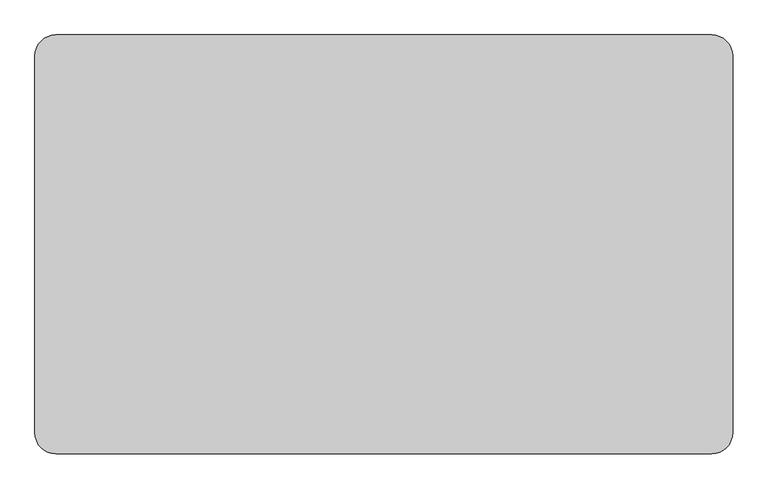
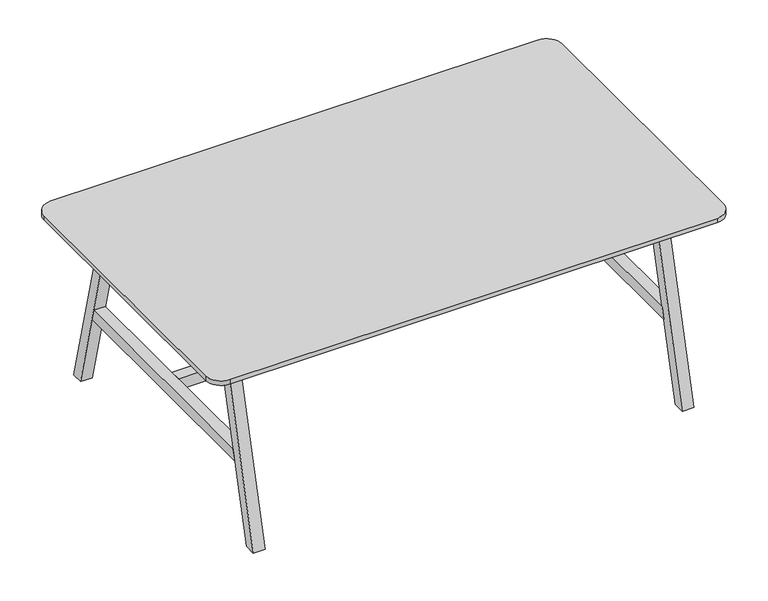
"""IFC4 building model written with IfcOpenShell, lengths in millimetres: furniture geometry, BDG_BossDesign_Tbls_AgentTables4Legs : AGE-DT-2000-1200-3D."""

from ifc_helpers import new_model, si_unit, point, frame, frame_2d, origin, place, context, project, spatial, polyline, circle_curve, trimmed, segment, composite_curve, outline, extrude, source, transform, mapped, element, save


def furniture_3deafaf1(model_context):
    return source(origin(), model_context, "Body", "SweptSolid", [
        extrude(outline(polyline([(-466.3977249, 345.0), (466.3977249, 345.0), (477.9545427, 300.0), (-477.9545427, 300.0), (-466.3977249, 345.0)])), frame((805.0, 0.0, 0.0), z_axis=(1.0, 0.0, 0.0), x_axis=(0.0, 1.0, 0.0)), (0.0, 0.0, 1.0), 45.0),
        extrude(outline(polyline([(600.0, 0.0), (554.9999949, 0.0), (385.5, 660.0), (430.5000051, 660.0), (600.0, 0.0)])), frame((-850.0, 0.0, 0.0), z_axis=(1.0, 0.0, 0.0), x_axis=(0.0, 1.0, 0.0)), (0.0, 0.0, 1.0), 45.0),
        extrude(outline(polyline([(-600.0, 0.0), (-430.5000051, 660.0), (-385.5, 660.0), (-554.9999949, 0.0), (-600.0, 0.0)])), frame((-850.0, 0.0, 0.0), z_axis=(1.0, 0.0, 0.0), x_axis=(0.0, 1.0, 0.0)), (0.0, 0.0, 1.0), 45.0),
        extrude(outline(polyline([(-379.5, 722.0), (379.5, 722.0), (397.9691272, 650.0), (-397.9691272, 650.0), (-379.5, 722.0)])), frame((388.0, 0.0, 0.0), z_axis=(1.0, 0.0, 0.0), x_axis=(0.0, 1.0, 0.0)), (0.0, 0.0, 1.0), 24.0),
        extrude(outline(polyline([(-466.3977249, 345.0), (466.3977249, 345.0), (477.9545427, 300.0), (-477.9545427, 300.0), (-466.3977249, 345.0)])), frame((-850.0, 0.0, 0.0), z_axis=(1.0, 0.0, 0.0), x_axis=(0.0, 1.0, 0.0)), (0.0, 0.0, 1.0), 45.0),
        extrude(outline(polyline([(-379.5, 722.0), (379.5, 722.0), (397.9691272, 650.0), (-397.9691272, 650.0), (-379.5, 722.0)])), frame((-412.0, 0.0, 0.0), z_axis=(1.0, 0.0, 0.0), x_axis=(0.0, 1.0, 0.0)), (0.0, 0.0, 1.0), 24.0),
        extrude(outline(polyline([(-426.6006165, 634.973938), (-404.2770691, 722.0), (-379.5, 722.0), (-401.8235474, 634.973938), (-426.6006165, 634.973938)])), frame((-805.0, 0.0, 0.0), z_axis=(1.0, 0.0, 0.0), x_axis=(0.0, 1.0, 0.0)), (0.0, 0.0, 1.0), 1610.0),
        extrude(outline(polyline([(426.6006165, 634.973938), (401.8235474, 634.973938), (379.5, 722.0), (404.2770691, 722.0), (426.6006165, 634.973938)])), frame((-805.0, 0.0, 0.0), z_axis=(1.0, 0.0, 0.0), x_axis=(0.0, 1.0, 0.0)), (0.0, 0.0, 1.0), 1610.0),
        extrude(outline(polyline([(599.7999878, 0.0), (554.7999827, 0.0), (385.5, 660.0), (430.5000051, 660.0), (599.7999878, 0.0)])), frame((805.0, 0.0, 0.0), z_axis=(1.0, 0.0, 0.0), x_axis=(0.0, 1.0, 0.0)), (0.0, 0.0, 1.0), 45.0),
        extrude(outline(polyline([(-599.7999878, 0.0), (-430.5000051, 660.0), (-385.5, 660.0), (-554.7999827, 0.0), (-599.7999878, 0.0)])), frame((805.0, 0.0, 0.0), z_axis=(1.0, 0.0, 0.0), x_axis=(0.0, 1.0, 0.0)), (0.0, 0.0, 1.0), 45.0),
        extrude(outline(polyline([(805.0, 22.5000305), (805.0, -22.5000305), (-805.0, -22.5000305), (-805.0, 22.5000305), (805.0, 22.5000305)])), frame((0.0, 0.0, 300.0), z_axis=(0.0, 0.0, 1.0), x_axis=(1.0, 0.0, 0.0)), (0.0, 0.0, 1.0), 45.0),
        extrude(outline(composite_curve([segment(trimmed(circle_curve(frame_2d((940.0, 540.0)), 60.0), [point((940.0, 600.0))], [point((1000.0, 540.0))], False, "CARTESIAN"), True, "CONTINUOUS"), segment(polyline([(1000.0, 540.0), (1000.0, -540.0)]), True, "CONTINUOUS"), segment(trimmed(circle_curve(frame_2d((940.0, -540.0)), 60.0), [point((1000.0, -540.0))], [point((940.0, -600.0))], False, "CARTESIAN"), True, "CONTINUOUS"), segment(polyline([(940.0, -600.0), (-940.0, -600.0)]), True, "CONTINUOUS"), segment(trimmed(circle_curve(frame_2d((-940.0, -540.0)), 60.0), [point((-940.0, -600.0))], [point((-1000.0, -540.0))], False, "CARTESIAN"), True, "CONTINUOUS"), segment(polyline([(-1000.0, -540.0), (-1000.0, 540.0)]), True, "CONTINUOUS"), segment(trimmed(circle_curve(frame_2d((-940.0, 540.0)), 60.0), [point((-1000.0, 540.0))], [point((-940.0, 600.0))], False, "CARTESIAN"), True, "CONTINUOUS"), segment(polyline([(-940.0, 600.0), (940.0, 600.0)]), True, "CONTINUOUS")], self_intersect=False)), frame((0.0, 0.0, 722.0), z_axis=(0.0, 0.0, 1.0), x_axis=(1.0, 0.0, 0.0)), (0.0, 0.0, 1.0), 18.0),
    ])


if __name__ == "__main__":
    model = new_model("IFC4")
    model_context = context("Model", 3, world=origin())
    ifc_project = project(units=[si_unit("LENGTHUNIT", "METRE", prefix="MILLI")], contexts=[model_context])
    site = spatial("IfcSite", under=ifc_project)
    building = spatial("IfcBuilding", under=site)
    placement = place(None, origin())
    furniture_shape = furniture_3deafaf1(model_context)
    element("IfcFurniture", 1, ObjectType="BDG_BossDesign_Tbls_AgentTables4Legs : AGE-DT-2000-1200-3D", at=placement, inside=building, context=model_context, shape_type="MappedRepresentation", body=[
        mapped(furniture_shape, transform((0.0, 0.0, 0.0), x_axis=(1.0, 0.0, 0.0), y_axis=(0.0, 1.0, 0.0), z_axis=(0.0, 0.0, 1.0))),
    ])
    save(model, "model.ifc")
